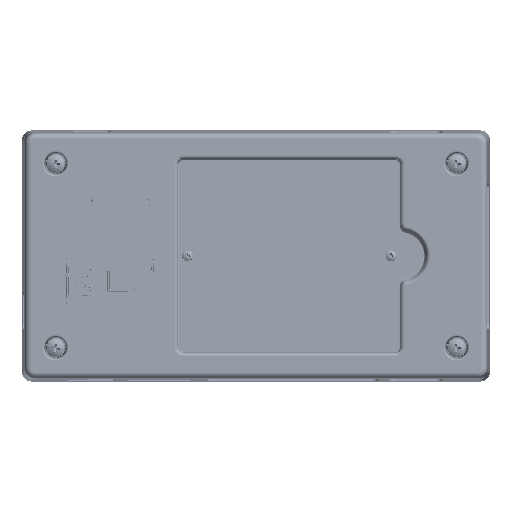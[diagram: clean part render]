
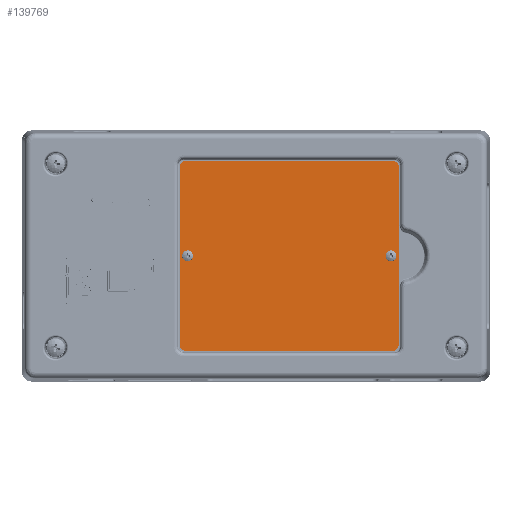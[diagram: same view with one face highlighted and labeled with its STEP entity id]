
A CAD part, top view. The second image highlights one B-rep face of the part: STEP entity #139769.
In plain terms, the highlighted planar face has unit normal (0, 0, 1) as drawn and (0, -1, 0) by its records, which use the part's own axes.
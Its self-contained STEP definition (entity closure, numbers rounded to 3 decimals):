
#1271 = AXIS2_PLACEMENT_3D ( 'NONE', #3149, #122788, #134083 ) ;
#3149 = CARTESIAN_POINT ( 'NONE',  ( -53.5, 0., 46. ) ) ;
#5130 = VERTEX_POINT ( 'NONE', #38297 ) ;
#5867 = DIRECTION ( 'NONE',  ( 0., 1., 0. ) ) ;
#6372 = CARTESIAN_POINT ( 'NONE',  ( 52.5, 0., -1.75 ) ) ;
#7763 = EDGE_CURVE ( 'NONE', #15642, #28300, #47776, .T. ) ;
#8336 = ORIENTED_EDGE ( 'NONE', *, *, #71491, .F. ) ;
#9576 = DIRECTION ( 'NONE',  ( 1., 0., 0. ) ) ;
#9813 = DIRECTION ( 'NONE',  ( 0., 0., -1. ) ) ;
#9900 = CARTESIAN_POINT ( 'NONE',  ( -53.5, 0., 49. ) ) ;
#10969 = CARTESIAN_POINT ( 'NONE',  ( 53.5, 0., -49. ) ) ;
#11193 = DIRECTION ( 'NONE',  ( 0., 0., 1. ) ) ;
#12729 = LINE ( 'NONE', #49664, #147188 ) ;
#14153 = CARTESIAN_POINT ( 'NONE',  ( -53.5, 0., -49. ) ) ;
#14530 = LINE ( 'NONE', #73139, #126347 ) ;
#15642 = VERTEX_POINT ( 'NONE', #92905 ) ;
#17941 = CARTESIAN_POINT ( 'NONE',  ( 52.5, 0., 0. ) ) ;
#20052 = CARTESIAN_POINT ( 'NONE',  ( -53.5, 0., 49. ) ) ;
#20783 = CIRCLE ( 'NONE', #115627, 1.75 ) ;
#24609 = VERTEX_POINT ( 'NONE', #118230 ) ;
#27120 = DIRECTION ( 'NONE',  ( 0., 0., 1. ) ) ;
#27869 = FACE_OUTER_BOUND ( 'NONE', #51386, .T. ) ;
#28300 = VERTEX_POINT ( 'NONE', #10969 ) ;
#29467 = ORIENTED_EDGE ( 'NONE', *, *, #7763, .F. ) ;
#30568 = ORIENTED_EDGE ( 'NONE', *, *, #123832, .F. ) ;
#30765 = DIRECTION ( 'NONE',  ( 0., 0., -1. ) ) ;
#32123 = ORIENTED_EDGE ( 'NONE', *, *, #36281, .F. ) ;
#32700 = VERTEX_POINT ( 'NONE', #9900 ) ;
#36281 = EDGE_CURVE ( 'NONE', #46790, #15642, #12729, .T. ) ;
#36755 = DIRECTION ( 'NONE',  ( 0., 0., 1. ) ) ;
#38297 = CARTESIAN_POINT ( 'NONE',  ( 53.5, 0., 49. ) ) ;
#43761 = CARTESIAN_POINT ( 'NONE',  ( 56.5, 0., 46. ) ) ;
#43793 = ORIENTED_EDGE ( 'NONE', *, *, #110644, .T. ) ;
#45176 = AXIS2_PLACEMENT_3D ( 'NONE', #94847, #129469, #9813 ) ;
#45755 = CIRCLE ( 'NONE', #138032, 3. ) ;
#46641 = CARTESIAN_POINT ( 'NONE',  ( 52.5, 0., 1.75 ) ) ;
#46790 = VERTEX_POINT ( 'NONE', #43761 ) ;
#47776 = CIRCLE ( 'NONE', #45176, 3. ) ;
#49664 = CARTESIAN_POINT ( 'NONE',  ( 56.5, 0., 46. ) ) ;
#50373 = DIRECTION ( 'NONE',  ( 0., 1., 0. ) ) ;
#50765 = EDGE_CURVE ( 'NONE', #149447, #150693, #76338, .T. ) ;
#51386 = EDGE_LOOP ( 'NONE', ( #127270, #61609, #30568, #8336, #146472, #89070, #29467, #32123 ) ) ;
#52065 = CARTESIAN_POINT ( 'NONE',  ( -52.5, 0., -1.75 ) ) ;
#54248 = ORIENTED_EDGE ( 'NONE', *, *, #50765, .T. ) ;
#54419 = ORIENTED_EDGE ( 'NONE', *, *, #66033, .T. ) ;
#59382 = DIRECTION ( 'NONE',  ( 0., 1., 0. ) ) ;
#61609 = ORIENTED_EDGE ( 'NONE', *, *, #150699, .F. ) ;
#62969 = AXIS2_PLACEMENT_3D ( 'NONE', #149148, #50373, #36755 ) ;
#63980 = CARTESIAN_POINT ( 'NONE',  ( 53.5, 0., 46. ) ) ;
#66033 = EDGE_CURVE ( 'NONE', #100871, #94583, #20783, .T. ) ;
#68418 = CARTESIAN_POINT ( 'NONE',  ( -53.5, 0., -46. ) ) ;
#69798 = LINE ( 'NONE', #20052, #131277 ) ;
#71491 = EDGE_CURVE ( 'NONE', #24609, #86749, #14530, .T. ) ;
#73139 = CARTESIAN_POINT ( 'NONE',  ( -56.5, 0., 46. ) ) ;
#75214 = DIRECTION ( 'NONE',  ( 0., 0., 1. ) ) ;
#76338 = CIRCLE ( 'NONE', #155908, 1.75 ) ;
#78767 = EDGE_CURVE ( 'NONE', #150693, #149447, #106012, .T. ) ;
#78932 = CARTESIAN_POINT ( 'NONE',  ( -53.5, 0., -49. ) ) ;
#86749 = VERTEX_POINT ( 'NONE', #135665 ) ;
#87321 = ORIENTED_EDGE ( 'NONE', *, *, #78767, .T. ) ;
#89070 = ORIENTED_EDGE ( 'NONE', *, *, #156340, .F. ) ;
#89644 = VERTEX_POINT ( 'NONE', #14153 ) ;
#90443 = CARTESIAN_POINT ( 'NONE',  ( -52.5, 0., 0. ) ) ;
#92035 = DIRECTION ( 'NONE',  ( 0., 1., 0. ) ) ;
#92905 = CARTESIAN_POINT ( 'NONE',  ( 56.5, 0., -46. ) ) ;
#93154 = CARTESIAN_POINT ( 'NONE',  ( -52.5, 0., 1.75 ) ) ;
#94046 = DIRECTION ( 'NONE',  ( 0., 0., -1. ) ) ;
#94583 = VERTEX_POINT ( 'NONE', #93154 ) ;
#94847 = CARTESIAN_POINT ( 'NONE',  ( 53.5, 0., -46. ) ) ;
#97637 = EDGE_CURVE ( 'NONE', #5130, #46790, #151211, .T. ) ;
#97986 = DIRECTION ( 'NONE',  ( 0., 0., 1. ) ) ;
#99294 = FACE_BOUND ( 'NONE', #114752, .T. ) ;
#100844 = AXIS2_PLACEMENT_3D ( 'NONE', #152323, #92035, #153115 ) ;
#100871 = VERTEX_POINT ( 'NONE', #52065 ) ;
#101717 = EDGE_LOOP ( 'NONE', ( #54419, #43793 ) ) ;
#104604 = LINE ( 'NONE', #78932, #150153 ) ;
#106012 = CIRCLE ( 'NONE', #100844, 1.75 ) ;
#108993 = CIRCLE ( 'NONE', #1271, 3. ) ;
#110644 = EDGE_CURVE ( 'NONE', #94583, #100871, #129178, .T. ) ;
#114752 = EDGE_LOOP ( 'NONE', ( #87321, #54248 ) ) ;
#115627 = AXIS2_PLACEMENT_3D ( 'NONE', #90443, #137905, #27120 ) ;
#118179 = DIRECTION ( 'NONE',  ( 0., 1., 0. ) ) ;
#118230 = CARTESIAN_POINT ( 'NONE',  ( -56.5, 0., -46. ) ) ;
#120467 = AXIS2_PLACEMENT_3D ( 'NONE', #63980, #123427, #75214 ) ;
#121964 = CARTESIAN_POINT ( 'NONE',  ( -52.5, 0., 0. ) ) ;
#122788 = DIRECTION ( 'NONE',  ( 0., 1., 0. ) ) ;
#123427 = DIRECTION ( 'NONE',  ( 0., 1., 0. ) ) ;
#123832 = EDGE_CURVE ( 'NONE', #86749, #32700, #108993, .T. ) ;
#126347 = VECTOR ( 'NONE', #97986, 1000. ) ;
#127270 = ORIENTED_EDGE ( 'NONE', *, *, #97637, .F. ) ;
#128092 = EDGE_CURVE ( 'NONE', #89644, #24609, #45755, .T. ) ;
#129178 = CIRCLE ( 'NONE', #157473, 1.75 ) ;
#129469 = DIRECTION ( 'NONE',  ( 0., 1., 0. ) ) ;
#131277 = VECTOR ( 'NONE', #9576, 1000. ) ;
#134083 = DIRECTION ( 'NONE',  ( 0., 0., -1. ) ) ;
#134711 = PLANE ( 'NONE',  #62969 ) ;
#135665 = CARTESIAN_POINT ( 'NONE',  ( -56.5, 0., 46. ) ) ;
#137905 = DIRECTION ( 'NONE',  ( 0., 1., 0. ) ) ;
#138032 = AXIS2_PLACEMENT_3D ( 'NONE', #68418, #118179, #94046 ) ;
#139769 = ADVANCED_FACE ( 'NONE', ( #27869, #148351, #99294 ), #134711, .F. ) ;
#146472 = ORIENTED_EDGE ( 'NONE', *, *, #128092, .F. ) ;
#147188 = VECTOR ( 'NONE', #147647, 1000. ) ;
#147647 = DIRECTION ( 'NONE',  ( 0., 0., -1. ) ) ;
#148351 = FACE_BOUND ( 'NONE', #101717, .T. ) ;
#149148 = CARTESIAN_POINT ( 'NONE',  ( 53.5, 0., 46. ) ) ;
#149447 = VERTEX_POINT ( 'NONE', #46641 ) ;
#150153 = VECTOR ( 'NONE', #153590, 1000. ) ;
#150693 = VERTEX_POINT ( 'NONE', #6372 ) ;
#150699 = EDGE_CURVE ( 'NONE', #32700, #5130, #69798, .T. ) ;
#151211 = CIRCLE ( 'NONE', #120467, 3. ) ;
#152323 = CARTESIAN_POINT ( 'NONE',  ( 52.5, 0., 0. ) ) ;
#153115 = DIRECTION ( 'NONE',  ( 0., 0., -1. ) ) ;
#153590 = DIRECTION ( 'NONE',  ( -1., 0., 0. ) ) ;
#155908 = AXIS2_PLACEMENT_3D ( 'NONE', #17941, #5867, #30765 ) ;
#156340 = EDGE_CURVE ( 'NONE', #28300, #89644, #104604, .T. ) ;
#157473 = AXIS2_PLACEMENT_3D ( 'NONE', #121964, #59382, #11193 ) ;
